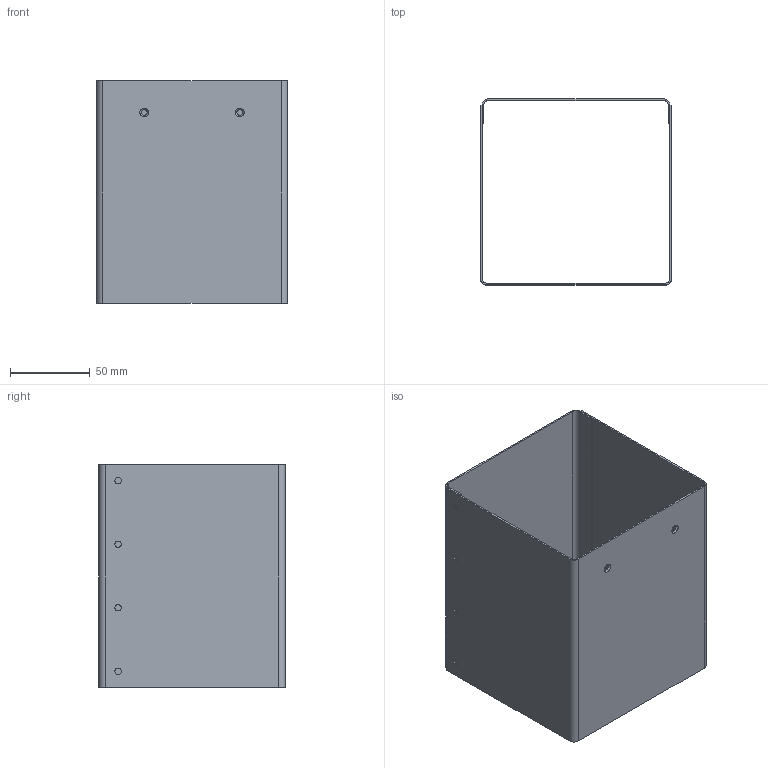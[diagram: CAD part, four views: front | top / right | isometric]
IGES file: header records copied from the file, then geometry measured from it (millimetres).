
Start section: SolidWorks IGES file using analytic representation for surfaces
Global section: file name: C:\Users\zerno\YandexDisk-llOrigonll\Work\Work\Safe spot RUEL\Ïðîåêòû\0001_Cupro M\04_Èíôîðìàöèÿ\Äëÿ ñàéòà\Cupro IGS\Òóáóñ Cupro M.IGS; native system: SolidWorks 2022; preprocessor: SolidWorks 2022; author: zerno; date: 251024.141323; units: millimetre
Bounding box: 120 x 117 x 140 mm (x, y, z)
Surface area: 136918.2 mm2 (no closed solid volume)
Topology: 0 solids, 0 shells, 54 faces, 338 edges, 416 vertices
Faces by surface type: bspline 36, revolution 18
